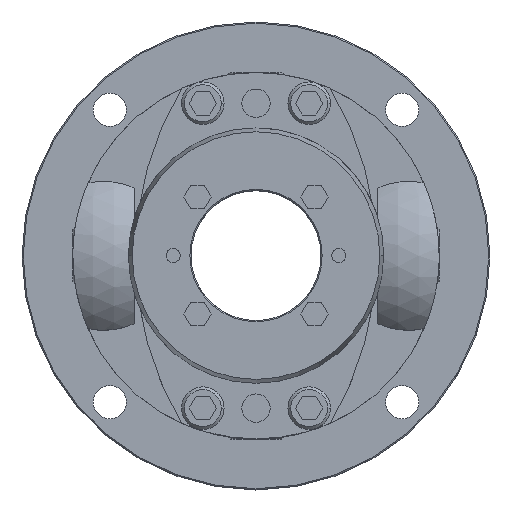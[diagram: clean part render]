
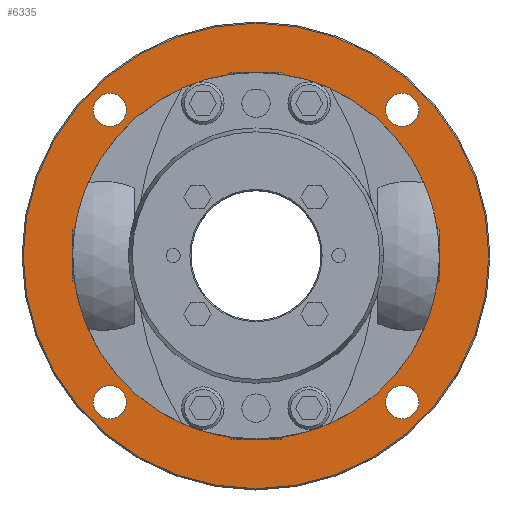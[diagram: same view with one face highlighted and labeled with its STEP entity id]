
A CAD part, top view. The second image highlights one B-rep face of the part: STEP entity #6335.
In plain terms, the highlighted planar face has unit normal (0, 0, 1).
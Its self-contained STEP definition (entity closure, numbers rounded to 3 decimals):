
#1193=CARTESIAN_POINT('',(0.,77.5,-28.5));
#1194=VERTEX_POINT('',#1193);
#1203=CARTESIAN_POINT('',(0.,-77.5,-28.5));
#1204=VERTEX_POINT('',#1203);
#1205=CARTESIAN_POINT('',(0.0,0.0,-28.5));
#1206=DIRECTION('',(0.0,0.0,-1.0));
#1207=DIRECTION('',(0.0,1.0,0.0));
#1208=AXIS2_PLACEMENT_3D('',#1205,#1206,#1207);
#1209=CIRCLE('',#1208,77.5);
#1210=EDGE_CURVE('',#1204,#1194,#1209,.T.);
#1285=CARTESIAN_POINT('',(-61.872,68.872,-28.5));
#1286=VERTEX_POINT('',#1285);
#1295=CARTESIAN_POINT('',(-61.872,54.872,-28.5));
#1296=VERTEX_POINT('',#1295);
#1297=CARTESIAN_POINT('',(-61.872,61.872,-28.5));
#1298=DIRECTION('',(0.0,0.0,-1.0));
#1299=DIRECTION('',(0.0,1.0,0.0));
#1300=AXIS2_PLACEMENT_3D('',#1297,#1298,#1299);
#1301=CIRCLE('',#1300,7.0);
#1302=EDGE_CURVE('',#1296,#1286,#1301,.T.);
#1327=CARTESIAN_POINT('',(-61.872,-54.872,-28.5));
#1328=VERTEX_POINT('',#1327);
#1337=CARTESIAN_POINT('',(-61.872,-68.872,-28.5));
#1338=VERTEX_POINT('',#1337);
#1339=CARTESIAN_POINT('',(-61.872,-61.872,-28.5));
#1340=DIRECTION('',(0.0,0.0,-1.0));
#1341=DIRECTION('',(0.0,1.0,0.0));
#1342=AXIS2_PLACEMENT_3D('',#1339,#1340,#1341);
#1343=CIRCLE('',#1342,7.0);
#1344=EDGE_CURVE('',#1338,#1328,#1343,.T.);
#1369=CARTESIAN_POINT('',(61.872,-54.872,-28.5));
#1370=VERTEX_POINT('',#1369);
#1379=CARTESIAN_POINT('',(61.872,-68.872,-28.5));
#1380=VERTEX_POINT('',#1379);
#1381=CARTESIAN_POINT('',(61.872,-61.872,-28.5));
#1382=DIRECTION('',(0.0,0.0,-1.0));
#1383=DIRECTION('',(0.0,1.0,0.0));
#1384=AXIS2_PLACEMENT_3D('',#1381,#1382,#1383);
#1385=CIRCLE('',#1384,7.0);
#1386=EDGE_CURVE('',#1380,#1370,#1385,.T.);
#1411=CARTESIAN_POINT('',(61.872,68.872,-28.5));
#1412=VERTEX_POINT('',#1411);
#1421=CARTESIAN_POINT('',(61.872,54.872,-28.5));
#1422=VERTEX_POINT('',#1421);
#1423=CARTESIAN_POINT('',(61.872,61.872,-28.5));
#1424=DIRECTION('',(0.0,0.0,-1.0));
#1425=DIRECTION('',(0.0,1.0,0.0));
#1426=AXIS2_PLACEMENT_3D('',#1423,#1424,#1425);
#1427=CIRCLE('',#1426,7.0);
#1428=EDGE_CURVE('',#1422,#1412,#1427,.T.);
#1959=CARTESIAN_POINT('',(0.,-98.5,-28.5));
#1960=VERTEX_POINT('',#1959);
#1969=CARTESIAN_POINT('',(0.,98.5,-28.5));
#1970=VERTEX_POINT('',#1969);
#1971=CARTESIAN_POINT('',(0.0,0.0,-28.5));
#1972=DIRECTION('',(0.0,0.0,-1.0));
#1973=DIRECTION('',(0.0,-1.0,0.0));
#1974=AXIS2_PLACEMENT_3D('',#1971,#1972,#1973);
#1975=CIRCLE('',#1974,98.5);
#1976=EDGE_CURVE('',#1960,#1970,#1975,.T.);
#6266=CARTESIAN_POINT('',(0.0,0.0,-28.5));
#6267=DIRECTION('',(0.0,0.0,-1.0));
#6268=DIRECTION('',(0.0,-1.0,0.0));
#6269=AXIS2_PLACEMENT_3D('',#6266,#6267,#6268);
#6270=CIRCLE('',#6269,98.5);
#6271=EDGE_CURVE('',#1970,#1960,#6270,.T.);
#6276=CARTESIAN_POINT('',(0.,9.,-28.5));
#6277=DIRECTION('',(0.0,0.0,1.0));
#6278=DIRECTION('',(0.0,1.0,0.0));
#6279=AXIS2_PLACEMENT_3D('',#6276,#6277,#6278);
#6280=PLANE('',#6279);
#6281=ORIENTED_EDGE('',*,*,#6271,.F.);
#6282=ORIENTED_EDGE('',*,*,#1976,.F.);
#6283=EDGE_LOOP('',(#6281,#6282));
#6284=FACE_OUTER_BOUND('',#6283,.T.);
#6285=ORIENTED_EDGE('',*,*,#1210,.T.);
#6286=CARTESIAN_POINT('',(0.0,0.0,-28.5));
#6287=DIRECTION('',(0.0,0.0,-1.0));
#6288=DIRECTION('',(0.0,1.0,0.0));
#6289=AXIS2_PLACEMENT_3D('',#6286,#6287,#6288);
#6290=CIRCLE('',#6289,77.5);
#6291=EDGE_CURVE('',#1194,#1204,#6290,.T.);
#6292=ORIENTED_EDGE('',*,*,#6291,.T.);
#6293=EDGE_LOOP('',(#6285,#6292));
#6294=FACE_BOUND('',#6293,.T.);
#6295=ORIENTED_EDGE('',*,*,#1302,.T.);
#6296=CARTESIAN_POINT('',(-61.872,61.872,-28.5));
#6297=DIRECTION('',(0.0,0.0,-1.0));
#6298=DIRECTION('',(0.0,1.0,0.0));
#6299=AXIS2_PLACEMENT_3D('',#6296,#6297,#6298);
#6300=CIRCLE('',#6299,7.0);
#6301=EDGE_CURVE('',#1286,#1296,#6300,.T.);
#6302=ORIENTED_EDGE('',*,*,#6301,.T.);
#6303=EDGE_LOOP('',(#6295,#6302));
#6304=FACE_BOUND('',#6303,.T.);
#6305=ORIENTED_EDGE('',*,*,#1344,.T.);
#6306=CARTESIAN_POINT('',(-61.872,-61.872,-28.5));
#6307=DIRECTION('',(0.0,0.0,-1.0));
#6308=DIRECTION('',(0.0,1.0,0.0));
#6309=AXIS2_PLACEMENT_3D('',#6306,#6307,#6308);
#6310=CIRCLE('',#6309,7.0);
#6311=EDGE_CURVE('',#1328,#1338,#6310,.T.);
#6312=ORIENTED_EDGE('',*,*,#6311,.T.);
#6313=EDGE_LOOP('',(#6305,#6312));
#6314=FACE_BOUND('',#6313,.T.);
#6315=ORIENTED_EDGE('',*,*,#1386,.T.);
#6316=CARTESIAN_POINT('',(61.872,-61.872,-28.5));
#6317=DIRECTION('',(0.0,0.0,-1.0));
#6318=DIRECTION('',(0.0,1.0,0.0));
#6319=AXIS2_PLACEMENT_3D('',#6316,#6317,#6318);
#6320=CIRCLE('',#6319,7.0);
#6321=EDGE_CURVE('',#1370,#1380,#6320,.T.);
#6322=ORIENTED_EDGE('',*,*,#6321,.T.);
#6323=EDGE_LOOP('',(#6315,#6322));
#6324=FACE_BOUND('',#6323,.T.);
#6325=ORIENTED_EDGE('',*,*,#1428,.T.);
#6326=CARTESIAN_POINT('',(61.872,61.872,-28.5));
#6327=DIRECTION('',(0.0,0.0,-1.0));
#6328=DIRECTION('',(0.0,1.0,0.0));
#6329=AXIS2_PLACEMENT_3D('',#6326,#6327,#6328);
#6330=CIRCLE('',#6329,7.0);
#6331=EDGE_CURVE('',#1412,#1422,#6330,.T.);
#6332=ORIENTED_EDGE('',*,*,#6331,.T.);
#6333=EDGE_LOOP('',(#6325,#6332));
#6334=FACE_BOUND('',#6333,.T.);
#6335=ADVANCED_FACE('',(#6284,#6294,#6304,#6314,#6324,#6334),#6280,.T.);
